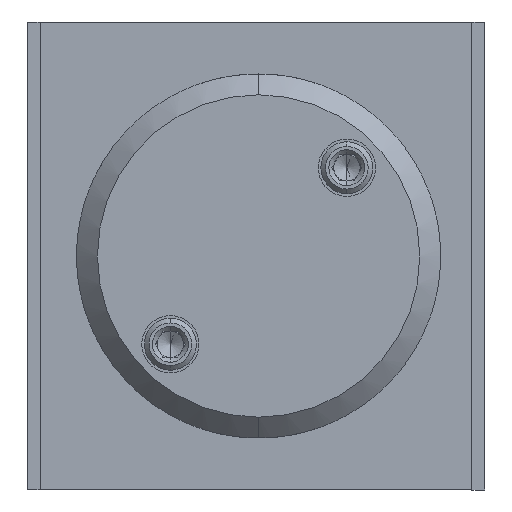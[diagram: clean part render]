
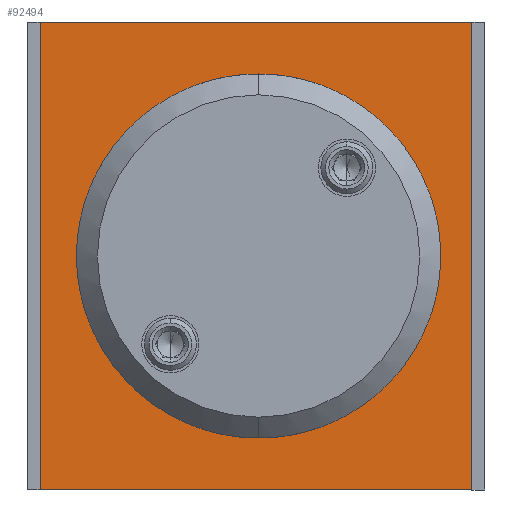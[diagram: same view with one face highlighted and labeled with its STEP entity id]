
A CAD part, left-side view. The second image highlights one B-rep face of the part: STEP entity #92494.
In plain terms, the highlighted planar face has unit normal (-1, 0, 0).
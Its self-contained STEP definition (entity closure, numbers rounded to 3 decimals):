
#1749 = CARTESIAN_POINT ( 'NONE',  ( 0., -16.25, 0. ) ) ;
#2700 = VECTOR ( 'NONE', #66643, 1000. ) ;
#2835 = VERTEX_POINT ( 'NONE', #51431 ) ;
#8766 = DIRECTION ( 'NONE',  ( 0., 0., -1. ) ) ;
#10755 = CARTESIAN_POINT ( 'NONE',  ( 0., -20.75, -22.5 ) ) ;
#13350 = VECTOR ( 'NONE', #22938, 1000. ) ;
#13563 = VERTEX_POINT ( 'NONE', #85911 ) ;
#14739 = CARTESIAN_POINT ( 'NONE',  ( 0., -20.75, 22.5 ) ) ;
#15130 = VERTEX_POINT ( 'NONE', #104324 ) ;
#15635 = EDGE_LOOP ( 'NONE', ( #71826, #72472, #73291, #74655 ) ) ;
#22938 = DIRECTION ( 'NONE',  ( 0., -1., 0. ) ) ;
#23730 = DIRECTION ( 'NONE',  ( 0., 0., -1. ) ) ;
#38492 = EDGE_CURVE ( 'NONE', #13563, #80487, #61630, .T. ) ;
#38827 = EDGE_CURVE ( 'NONE', #80487, #2835, #97792, .T. ) ;
#39161 = EDGE_CURVE ( 'NONE', #2835, #111935, #94924, .T. ) ;
#39693 = EDGE_CURVE ( 'NONE', #15130, #111648, #85057, .T. ) ;
#44032 = CARTESIAN_POINT ( 'NONE',  ( 0., -20.75, -22.5 ) ) ;
#47248 = DIRECTION ( 'NONE',  ( -1., 0., 0. ) ) ;
#48035 = DIRECTION ( 'NONE',  ( -1., 0., 0. ) ) ;
#51431 = CARTESIAN_POINT ( 'NONE',  ( 0., 20.75, -22.5 ) ) ;
#52086 = CIRCLE ( 'NONE', #98175, 16. ) ;
#57619 = CARTESIAN_POINT ( 'NONE',  ( 0., 20.75, -22.5 ) ) ;
#61630 = LINE ( 'NONE', #44032, #108901 ) ;
#66643 = DIRECTION ( 'NONE',  ( 0., 1., 0. ) ) ;
#67066 = ORIENTED_EDGE ( 'NONE', *, *, #39693, .F. ) ;
#67537 = ORIENTED_EDGE ( 'NONE', *, *, #108213, .F. ) ;
#68352 = VECTOR ( 'NONE', #114594, 1000. ) ;
#70464 = CARTESIAN_POINT ( 'NONE',  ( 0., 20.75, 22.5 ) ) ;
#71826 = ORIENTED_EDGE ( 'NONE', *, *, #100102, .F. ) ;
#72472 = ORIENTED_EDGE ( 'NONE', *, *, #39161, .F. ) ;
#73291 = ORIENTED_EDGE ( 'NONE', *, *, #38827, .F. ) ;
#74655 = ORIENTED_EDGE ( 'NONE', *, *, #38492, .F. ) ;
#76435 = CARTESIAN_POINT ( 'NONE',  ( 0., 20.75, 22.5 ) ) ;
#77227 = DIRECTION ( 'NONE',  ( -1., 0., 0. ) ) ;
#80487 = VERTEX_POINT ( 'NONE', #10755 ) ;
#81834 = LINE ( 'NONE', #76435, #13350 ) ;
#85057 = CIRCLE ( 'NONE', #95532, 16. ) ;
#85830 = FACE_OUTER_BOUND ( 'NONE', #15635, .T. ) ;
#85911 = CARTESIAN_POINT ( 'NONE',  ( 0., -20.75, 22.5 ) ) ;
#91473 = AXIS2_PLACEMENT_3D ( 'NONE', #14739, #77227, #23730 ) ;
#92494 = ADVANCED_FACE ( 'NONE', ( #109326, #85830 ), #94877, .T. ) ;
#92592 = EDGE_LOOP ( 'NONE', ( #67066, #67537 ) ) ;
#94877 = PLANE ( 'NONE',  #91473 ) ;
#94924 = LINE ( 'NONE', #105769, #68352 ) ;
#95532 = AXIS2_PLACEMENT_3D ( 'NONE', #100641, #47248, #109514 ) ;
#97792 = LINE ( 'NONE', #57619, #2700 ) ;
#98175 = AXIS2_PLACEMENT_3D ( 'NONE', #101410, #48035, #110316 ) ;
#100102 = EDGE_CURVE ( 'NONE', #111935, #13563, #81834, .T. ) ;
#100641 = CARTESIAN_POINT ( 'NONE',  ( 0., -0.25, 0. ) ) ;
#101410 = CARTESIAN_POINT ( 'NONE',  ( 0., -0.25, 0. ) ) ;
#104324 = CARTESIAN_POINT ( 'NONE',  ( 0., 15.75, 0. ) ) ;
#105769 = CARTESIAN_POINT ( 'NONE',  ( 0., 20.75, -22.5 ) ) ;
#108213 = EDGE_CURVE ( 'NONE', #111648, #15130, #52086, .T. ) ;
#108901 = VECTOR ( 'NONE', #8766, 1000. ) ;
#109326 = FACE_BOUND ( 'NONE', #92592, .T. ) ;
#109514 = DIRECTION ( 'NONE',  ( 0., 1., 0. ) ) ;
#110316 = DIRECTION ( 'NONE',  ( 0., 1., 0. ) ) ;
#111648 = VERTEX_POINT ( 'NONE', #1749 ) ;
#111935 = VERTEX_POINT ( 'NONE', #70464 ) ;
#114594 = DIRECTION ( 'NONE',  ( 0., 0., 1. ) ) ;
